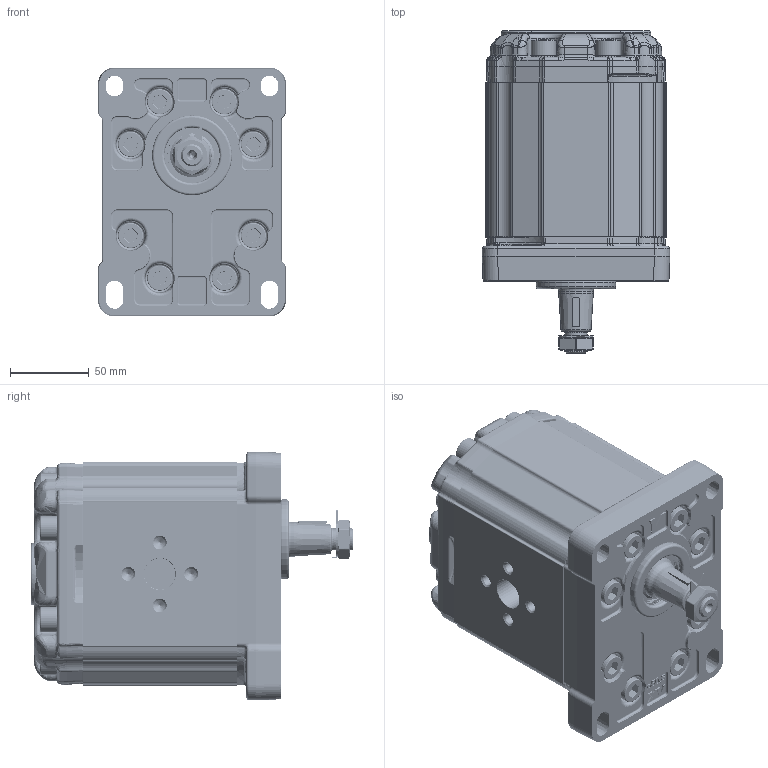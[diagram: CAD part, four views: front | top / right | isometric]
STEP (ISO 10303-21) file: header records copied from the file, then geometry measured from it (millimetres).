
FILE_DESCRIPTION(/* description */ ('Unknown'),/* implementation_level */ '2;1');
FILE_NAME(/* name */ 'X3P8201ABAA',/* time_stamp */ '2023-09-08T14:33:28+02:00',/* author */ ('Unknown'),/* organization */ ('Unknown'),/* preprocessor_version */ 'ST-DEVELOPER v16.7',/* originating_system */ 'Solid Edge',/* authorisation */ 'Unknown');
FILE_SCHEMA (('AUTOMOTIVE_DESIGN {1 0 10303 214 3 1 1}'));
Products named in the file (5): X3P8201ABAA; X3P01; 3A; X3BAH98; XP301-A
Assembly tree (4 placements, depth 2):
  X3P8201ABAA
    X3P01
    3A
    X3BAH98
    XP301-A
Bounding box: 119.2 x 205 x 157.8 mm (x, y, z)
Volume: 2270105.4 mm3; surface area: 229860.5 mm2
Topology: 4 solids, 5 shells, 4597 faces, 14078 edges, 8799 vertices
Faces by surface type: cylinder 1842, plane 1394, bspline 997, torus 200, cone 151, sphere 13
Full cylindrical faces by diameter (mm): 2 x2, 6.8 x4, 8.376 x4, 10 x16, 10.35 x30, 10.5 x1, 14 x2, 15.8 x16, 16 x16, 20 x1, 22 x1, 24.98 x1, 25 x2, 25.968 x1, 27 x1, 28.16 x1, 31 x1, 31.293 x1, 32.742 x1, 34.956 x1, 35 x1, 35.2 x1, 37 x1, 50.8 x1
Entity records: 310919 total; most frequent: CARTESIAN_POINT 163809, ORIENTED_EDGE 27172, DIRECTION 20433, EDGE_CURVE 13586, VERTEX_POINT 8656, AXIS2_PLACEMENT_3D 7787, FACE_BOUND 5074, EDGE_LOOP 5064
